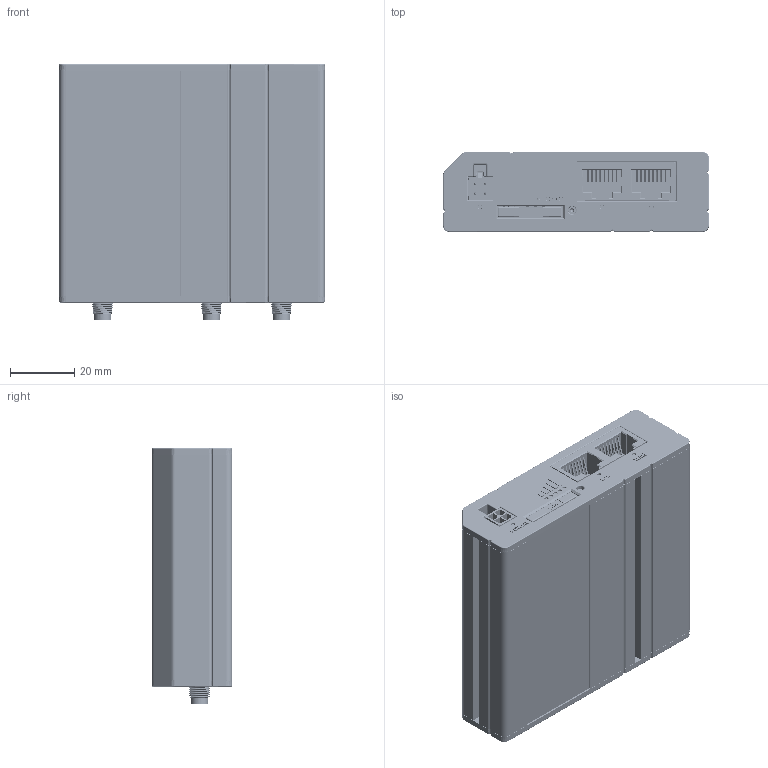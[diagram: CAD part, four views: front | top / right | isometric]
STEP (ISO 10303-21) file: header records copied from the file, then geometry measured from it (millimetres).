
FILE_DESCRIPTION (( 'STEP AP214' ), '1' );
FILE_NAME ('RUT200_korpusas_v6_R2XXDFP016_R2XXDRP012.STEP', '2022-10-06T12:40:28', ( '' ), ( '' ), 'SwSTEP 2.0', 'SolidWorks 2022', '' );
FILE_SCHEMA (( 'AUTOMOTIVE_DESIGN' ));
Length unit declared in the file: millimetre
Products named in the file (7): DIN 7982 PH heads 16x2.9mm; RUT2xx_rear_panel_v12_R2XXDRP012; SIM_stalciukas; RUT2xx_front_panel_v16_R2XXDFP016; RUT200_korpusas_v6_R2XXDFP016_R2XXDRP012; RUT241_v2.0; RUT2xx_korpusas_v6
Assembly tree (7 placements, depth 2):
  RUT200_korpusas_v6_R2XXDFP016_R2XXDRP012
    RUT2xx_korpusas_v6
    RUT2xx_front_panel_v16_R2XXDFP016
    RUT2xx_rear_panel_v12_R2XXDRP012
    DIN 7982 PH heads 16x2.9mm  x2
    RUT241_v2.0
    SIM_stalciukas
Bounding box: 83 x 25 x 80.25 mm (x, y, z)
Volume: 37195.6 mm3; surface area: 80482 mm2
Topology: 6 solids, 931 shells, 19419 faces, 48121 edges, 30896 vertices
Faces by surface type: plane 13785, cylinder 3190, bspline 1650, sphere 539, cone 158, torus 97
Full cylindrical faces by diameter (mm): 0.4 x1, 0.615 x1, 1 x9, 1.001 x1, 1.004 x1, 2 x1, 2.18 x30, 2.7 x4, 5.3 x2, 6 x1
Entity records: 824123 total; most frequent: CARTESIAN_POINT 183289, ORIENTED_EDGE 95490, DIRECTION 84499, EDGE_CURVE 47758, VECTOR 36781, LINE 36781, VERTEX_POINT 30765, AXIS2_PLACEMENT_3D 23859
